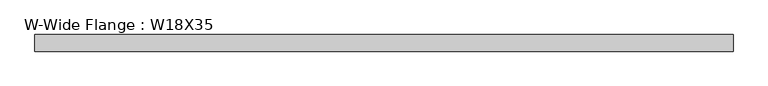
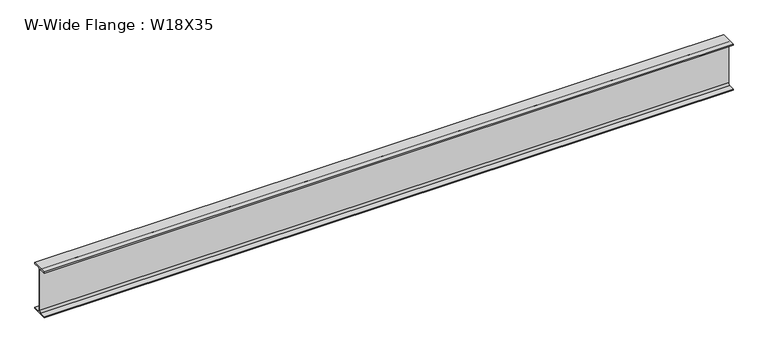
"""IFC4 building model written with IfcOpenShell, lengths in millimetres: beam geometry, W-Wide Flange : W18X35."""

from ifc_helpers import new_model, si_unit, point, frame, frame_2d, origin, place, context, project, spatial, polyline, circle_curve, trimmed, segment, composite_curve, outline, extrude, source, transform, mapped, element, save


def w_wide_flange_w18x35_87d37092(model_context):
    return source(origin(), model_context, "Body", "SweptSolid", [
        extrude(outline(composite_curve([segment(polyline([(-76.2, -213.995), (-21.59, -213.995)]), True, "CONTINUOUS"), segment(trimmed(circle_curve(frame_2d((-21.59, -196.215)), 17.78), [point((-21.59, -213.995))], [point((-3.81, -196.215))], True, "CARTESIAN"), True, "CONTINUOUS"), segment(polyline([(-3.81, -196.215), (-3.81, 196.215)]), True, "CONTINUOUS"), segment(trimmed(circle_curve(frame_2d((-21.59, 196.215)), 17.78), [point((-3.81, 196.215))], [point((-21.59, 213.995))], True, "CARTESIAN"), True, "CONTINUOUS"), segment(polyline([(-21.59, 213.995), (-76.2, 213.995), (-76.2, 224.79), (76.2, 224.79), (76.2, 213.995), (21.59, 213.995)]), True, "CONTINUOUS"), segment(trimmed(circle_curve(frame_2d((21.59, 196.215)), 17.78), [point((21.59, 213.995))], [point((3.81, 196.215))], True, "CARTESIAN"), True, "CONTINUOUS"), segment(polyline([(3.81, 196.215), (3.81, -196.215)]), True, "CONTINUOUS"), segment(trimmed(circle_curve(frame_2d((21.59, -196.215)), 17.78), [point((3.81, -196.215))], [point((21.59, -213.995))], True, "CARTESIAN"), True, "CONTINUOUS"), segment(polyline([(21.59, -213.995), (76.2, -213.995), (76.2, -224.79), (-76.2, -224.79), (-76.2, -213.995)]), True, "CONTINUOUS")], self_intersect=False)), frame((-3213.1, 0.0, 0.0), z_axis=(1.0, 0.0, 0.0), x_axis=(0.0, 1.0, 0.0)), (0.0, 0.0, 1.0), 6386.83),
    ])


if __name__ == "__main__":
    model = new_model("IFC4")
    model_context = context("Model", 3, world=origin())
    ifc_project = project(units=[si_unit("LENGTHUNIT", "METRE", prefix="MILLI")], contexts=[model_context])
    site = spatial("IfcSite", under=ifc_project)
    building = spatial("IfcBuilding", under=site)
    placement = place(None, origin())
    w_wide_flange_w18x35_shape = w_wide_flange_w18x35_87d37092(model_context)
    element("IfcBeam", 1, ObjectType="W-Wide Flange : W18X35", at=placement, inside=building, context=model_context, shape_type="MappedRepresentation", body=[
        mapped(w_wide_flange_w18x35_shape, transform((0.0, 0.0, 0.0), x_axis=(1.0, 0.0, 0.0), y_axis=(0.0, 1.0, 0.0), z_axis=(0.0, 0.0, 1.0))),
    ])
    save(model, "model.ifc")
